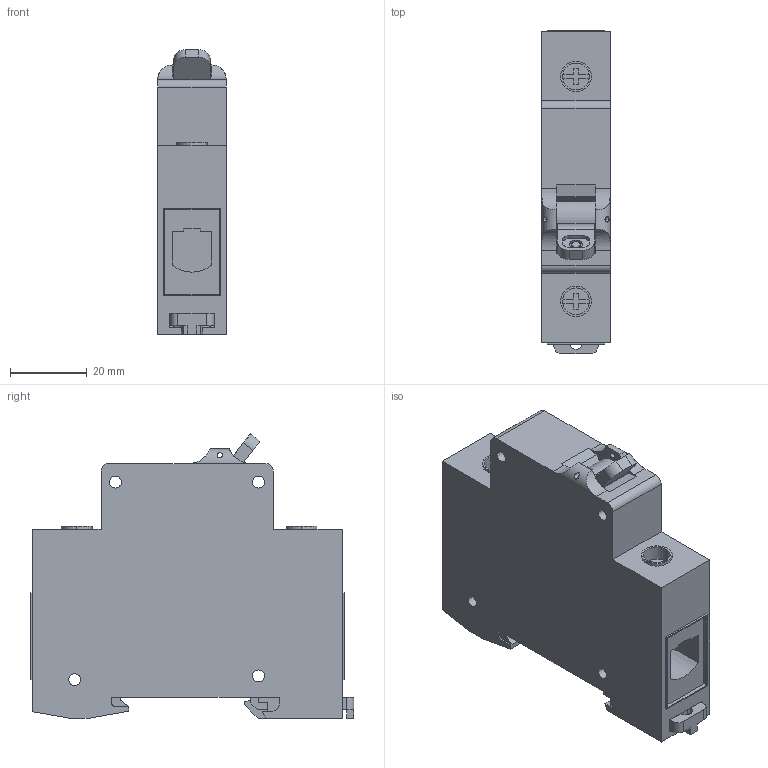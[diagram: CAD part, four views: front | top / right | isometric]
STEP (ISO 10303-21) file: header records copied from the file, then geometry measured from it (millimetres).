
FILE_DESCRIPTION((''),'2;1');
FILE_NAME('SWITCH_1P_3D-SIMPLIFIED_ASM','2012-09-05T',('Nyco'),(''),'PRO/ENGINEER BY PARAMETRIC TECHNOLOGY CORPORATION, 2006170','PRO/ENGINEER BY PARAMETRIC TECHNOLOGY CORPORATION, 2006170','');
FILE_SCHEMA(('CONFIG_CONTROL_DESIGN'));
Length unit declared in the file: millimetre
Products named in the file (5): COQUE; MANETTE; CLIP; VIS_7D; SWITCH_1P_3D-SIMPLIFIED_ASM
Assembly tree (5 placements, depth 2):
  SWITCH_1P_3D-SIMPLIFIED_ASM
    COQUE
    MANETTE
    CLIP
    VIS_7D  x2
Bounding box: 17.85 x 84.5 x 74.26 mm (x, y, z)
Volume: 77258.8 mm3; surface area: 19995.1 mm2
Topology: 5 solids, 5 shells, 263 faces, 711 edges, 470 vertices
Faces by surface type: plane 198, cylinder 65
Entity records: 7960 total; most frequent: CARTESIAN_POINT 1472, ORIENTED_EDGE 1338, DIRECTION 1295, EDGE_CURVE 669, VECTOR 541, LINE 541, VERTEX_POINT 442, AXIS2_PLACEMENT_3D 377
